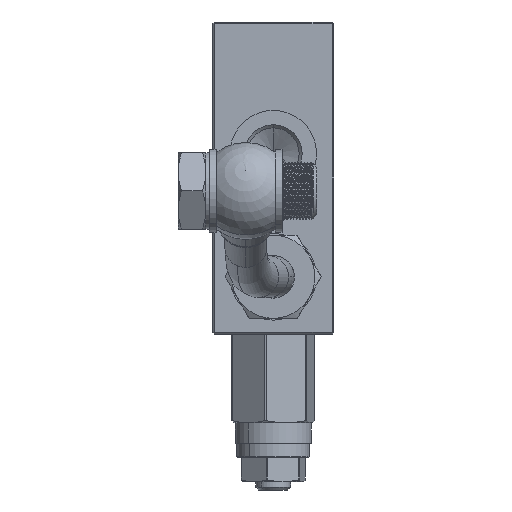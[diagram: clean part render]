
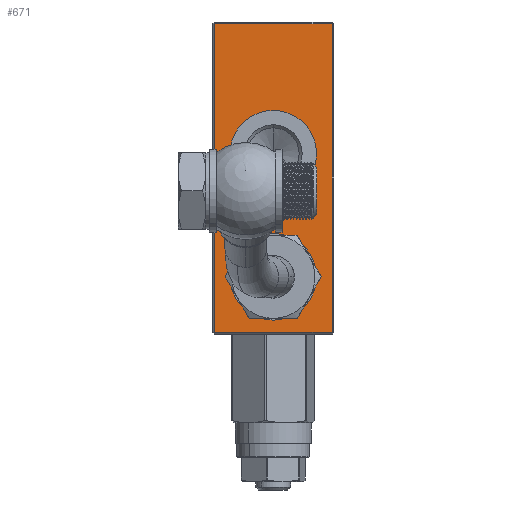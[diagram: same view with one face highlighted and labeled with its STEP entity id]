
A CAD part, left-side view. The second image highlights one B-rep face of the part: STEP entity #671.
In plain terms, the highlighted planar face has unit normal (-1, 0, 0) as drawn and (0, 0, 1) by its records, which use the part's own axes.
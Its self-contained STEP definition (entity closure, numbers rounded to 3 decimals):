
#671 = ADVANCED_FACE ( 'NONE', ( #9540, #26843, #16604 ), #40913, .T. ) ;
#841 = AXIS2_PLACEMENT_3D ( 'NONE', #43598, #29076, #39523 ) ;
#1125 = CARTESIAN_POINT ( 'NONE',  ( -44.5, 17.5, 80. ) ) ;
#1194 = DIRECTION ( 'NONE',  ( 0., 0., -1. ) ) ;
#1409 = DIRECTION ( 'NONE',  ( 1., 0., 0. ) ) ;
#1738 = ORIENTED_EDGE ( 'NONE', *, *, #34186, .T. ) ;
#2250 = DIRECTION ( 'NONE',  ( 1., 0., 0. ) ) ;
#2259 = CARTESIAN_POINT ( 'NONE',  ( -44.5, 17., 80. ) ) ;
#3022 = EDGE_LOOP ( 'NONE', ( #30395, #37511 ) ) ;
#3298 = EDGE_CURVE ( 'NONE', #25959, #36738, #20260, .T. ) ;
#4422 = AXIS2_PLACEMENT_3D ( 'NONE', #38335, #24234, #1409 ) ;
#4575 = CARTESIAN_POINT ( 'NONE',  ( -45., 17., 80. ) ) ;
#5196 = CARTESIAN_POINT ( 'NONE',  ( -41., 0., 80. ) ) ;
#5219 = CARTESIAN_POINT ( 'NONE',  ( -28.5, 0., 80. ) ) ;
#7848 = EDGE_CURVE ( 'NONE', #28548, #19561, #32793, .T. ) ;
#8176 = LINE ( 'NONE', #1125, #24304 ) ;
#8563 = EDGE_CURVE ( 'NONE', #19561, #28548, #29216, .T. ) ;
#8857 = ORIENTED_EDGE ( 'NONE', *, *, #7848, .T. ) ;
#9540 = FACE_BOUND ( 'NONE', #3022, .T. ) ;
#9567 = EDGE_CURVE ( 'NONE', #37860, #31474, #21135, .T. ) ;
#9749 = VERTEX_POINT ( 'NONE', #32304 ) ;
#10888 = CARTESIAN_POINT ( 'NONE',  ( 44.5, 17.5, 80. ) ) ;
#12582 = VECTOR ( 'NONE', #17081, 1000. ) ;
#15209 = DIRECTION ( 'NONE',  ( 0., 1., 0. ) ) ;
#15773 = VERTEX_POINT ( 'NONE', #2259 ) ;
#16399 = CARTESIAN_POINT ( 'NONE',  ( -45., -17., 80. ) ) ;
#16604 = FACE_OUTER_BOUND ( 'NONE', #41554, .T. ) ;
#17081 = DIRECTION ( 'NONE',  ( -1., 0., 0. ) ) ;
#19561 = VERTEX_POINT ( 'NONE', #36973 ) ;
#20018 = CARTESIAN_POINT ( 'NONE',  ( -45., 17.5, 80. ) ) ;
#20126 = CARTESIAN_POINT ( 'NONE',  ( 44.5, -17., 80. ) ) ;
#20260 = LINE ( 'NONE', #16399, #12582 ) ;
#20744 = CIRCLE ( 'NONE', #22909, 12.5 ) ;
#20943 = EDGE_LOOP ( 'NONE', ( #8857, #41379 ) ) ;
#21135 = CIRCLE ( 'NONE', #4422, 12.5 ) ;
#21281 = EDGE_CURVE ( 'NONE', #15773, #36738, #8176, .T. ) ;
#22185 = AXIS2_PLACEMENT_3D ( 'NONE', #20018, #22967, #2250 ) ;
#22283 = ORIENTED_EDGE ( 'NONE', *, *, #21281, .T. ) ;
#22642 = EDGE_CURVE ( 'NONE', #25959, #9749, #35431, .T. ) ;
#22909 = AXIS2_PLACEMENT_3D ( 'NONE', #5219, #35930, #42981 ) ;
#22967 = DIRECTION ( 'NONE',  ( 0., 0., 1. ) ) ;
#24234 = DIRECTION ( 'NONE',  ( 0., 0., -1. ) ) ;
#24304 = VECTOR ( 'NONE', #42531, 1000. ) ;
#25959 = VERTEX_POINT ( 'NONE', #20126 ) ;
#25975 = LINE ( 'NONE', #4575, #34121 ) ;
#26843 = FACE_BOUND ( 'NONE', #20943, .T. ) ;
#28548 = VERTEX_POINT ( 'NONE', #43515 ) ;
#28736 = CARTESIAN_POINT ( 'NONE',  ( 7., 0., 80. ) ) ;
#28936 = DIRECTION ( 'NONE',  ( -1., 0., 0. ) ) ;
#29076 = DIRECTION ( 'NONE',  ( 0., 0., -1. ) ) ;
#29216 = CIRCLE ( 'NONE', #841, 12.5 ) ;
#30395 = ORIENTED_EDGE ( 'NONE', *, *, #9567, .T. ) ;
#31427 = CARTESIAN_POINT ( 'NONE',  ( -16., 0., 80. ) ) ;
#31474 = VERTEX_POINT ( 'NONE', #5196 ) ;
#32304 = CARTESIAN_POINT ( 'NONE',  ( 44.5, 17., 80. ) ) ;
#32793 = CIRCLE ( 'NONE', #38595, 12.5 ) ;
#34121 = VECTOR ( 'NONE', #28936, 1000. ) ;
#34186 = EDGE_CURVE ( 'NONE', #9749, #15773, #25975, .T. ) ;
#34608 = CARTESIAN_POINT ( 'NONE',  ( -44.5, -17., 80. ) ) ;
#35431 = LINE ( 'NONE', #10888, #41800 ) ;
#35930 = DIRECTION ( 'NONE',  ( 0., 0., -1. ) ) ;
#36738 = VERTEX_POINT ( 'NONE', #34608 ) ;
#36973 = CARTESIAN_POINT ( 'NONE',  ( 19.5, 0., 80. ) ) ;
#37511 = ORIENTED_EDGE ( 'NONE', *, *, #42657, .T. ) ;
#37860 = VERTEX_POINT ( 'NONE', #31427 ) ;
#38335 = CARTESIAN_POINT ( 'NONE',  ( -28.5, 0., 80. ) ) ;
#38595 = AXIS2_PLACEMENT_3D ( 'NONE', #28736, #1194, #38967 ) ;
#38967 = DIRECTION ( 'NONE',  ( -1., 0., 0. ) ) ;
#39523 = DIRECTION ( 'NONE',  ( -1., 0., 0. ) ) ;
#40913 = PLANE ( 'NONE',  #22185 ) ;
#41379 = ORIENTED_EDGE ( 'NONE', *, *, #8563, .T. ) ;
#41554 = EDGE_LOOP ( 'NONE', ( #1738, #22283, #44508, #44895 ) ) ;
#41800 = VECTOR ( 'NONE', #15209, 1000. ) ;
#42531 = DIRECTION ( 'NONE',  ( 0., -1., 0. ) ) ;
#42657 = EDGE_CURVE ( 'NONE', #31474, #37860, #20744, .T. ) ;
#42981 = DIRECTION ( 'NONE',  ( 1., 0., 0. ) ) ;
#43515 = CARTESIAN_POINT ( 'NONE',  ( -5.5, 0., 80. ) ) ;
#43598 = CARTESIAN_POINT ( 'NONE',  ( 7., 0., 80. ) ) ;
#44508 = ORIENTED_EDGE ( 'NONE', *, *, #3298, .F. ) ;
#44895 = ORIENTED_EDGE ( 'NONE', *, *, #22642, .T. ) ;
